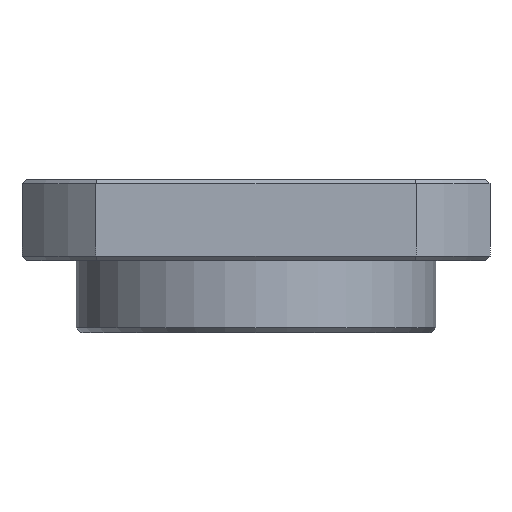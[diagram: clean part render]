
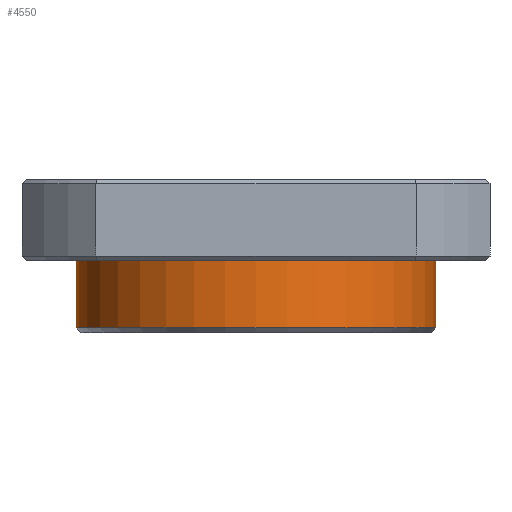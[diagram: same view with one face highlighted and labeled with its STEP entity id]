
A CAD part, front view. The second image highlights one B-rep face of the part: STEP entity #4550.
In plain terms, the highlighted cylindrical face has radius 20 mm (diameter 40 mm), a partial arc.
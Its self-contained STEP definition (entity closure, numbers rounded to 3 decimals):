
#91 = EDGE_CURVE ( 'NONE', #5381, #268, #2655, .T. ) ;
#268 = VERTEX_POINT ( 'NONE', #2943 ) ;
#435 = DIRECTION ( 'NONE',  ( -1., 0., 0. ) ) ;
#458 = EDGE_CURVE ( 'NONE', #4277, #1716, #3439, .T. ) ;
#654 = EDGE_LOOP ( 'NONE', ( #6921, #4544, #3277, #714 ) ) ;
#714 = ORIENTED_EDGE ( 'NONE', *, *, #1462, .T. ) ;
#1275 = CIRCLE ( 'NONE', #3500, 20. ) ;
#1462 = EDGE_CURVE ( 'NONE', #1716, #268, #1275, .T. ) ;
#1716 = VERTEX_POINT ( 'NONE', #4968 ) ;
#2026 = VECTOR ( 'NONE', #3491, 1000. ) ;
#2396 = DIRECTION ( 'NONE',  ( -1., 0., 0. ) ) ;
#2402 = DIRECTION ( 'NONE',  ( 0., 0., 1. ) ) ;
#2561 = CARTESIAN_POINT ( 'NONE',  ( 0., 0., -16.5 ) ) ;
#2581 = CIRCLE ( 'NONE', #4562, 20. ) ;
#2655 = LINE ( 'NONE', #3421, #2026 ) ;
#2772 = DIRECTION ( 'NONE',  ( 0., 0., -1. ) ) ;
#2802 = CARTESIAN_POINT ( 'NONE',  ( -20., 0., -34.404 ) ) ;
#2943 = CARTESIAN_POINT ( 'NONE',  ( 20., 0., -16.5 ) ) ;
#3016 = CARTESIAN_POINT ( 'NONE',  ( 0., 0., -9. ) ) ;
#3109 = DIRECTION ( 'NONE',  ( -1., 0., 0. ) ) ;
#3277 = ORIENTED_EDGE ( 'NONE', *, *, #458, .T. ) ;
#3418 = VECTOR ( 'NONE', #2772, 1000. ) ;
#3421 = CARTESIAN_POINT ( 'NONE',  ( 20., 0., -34.404 ) ) ;
#3439 = LINE ( 'NONE', #2802, #3418 ) ;
#3465 = EDGE_CURVE ( 'NONE', #5381, #4277, #2581, .T. ) ;
#3491 = DIRECTION ( 'NONE',  ( 0., 0., -1. ) ) ;
#3500 = AXIS2_PLACEMENT_3D ( 'NONE', #2561, #2402, #2396 ) ;
#4210 = CARTESIAN_POINT ( 'NONE',  ( 0., 0., -34.404 ) ) ;
#4243 = DIRECTION ( 'NONE',  ( 0., 0., -1. ) ) ;
#4277 = VERTEX_POINT ( 'NONE', #6104 ) ;
#4544 = ORIENTED_EDGE ( 'NONE', *, *, #3465, .T. ) ;
#4550 = ADVANCED_FACE ( 'NONE', ( #6527 ), #6390, .T. ) ;
#4562 = AXIS2_PLACEMENT_3D ( 'NONE', #3016, #5833, #435 ) ;
#4904 = CARTESIAN_POINT ( 'NONE',  ( 20., 0., -9. ) ) ;
#4968 = CARTESIAN_POINT ( 'NONE',  ( -20., 0., -16.5 ) ) ;
#5381 = VERTEX_POINT ( 'NONE', #4904 ) ;
#5833 = DIRECTION ( 'NONE',  ( 0., 0., -1. ) ) ;
#6104 = CARTESIAN_POINT ( 'NONE',  ( -20., 0., -9. ) ) ;
#6390 = CYLINDRICAL_SURFACE ( 'NONE', #6810, 20. ) ;
#6527 = FACE_OUTER_BOUND ( 'NONE', #654, .T. ) ;
#6810 = AXIS2_PLACEMENT_3D ( 'NONE', #4210, #4243, #3109 ) ;
#6921 = ORIENTED_EDGE ( 'NONE', *, *, #91, .F. ) ;
